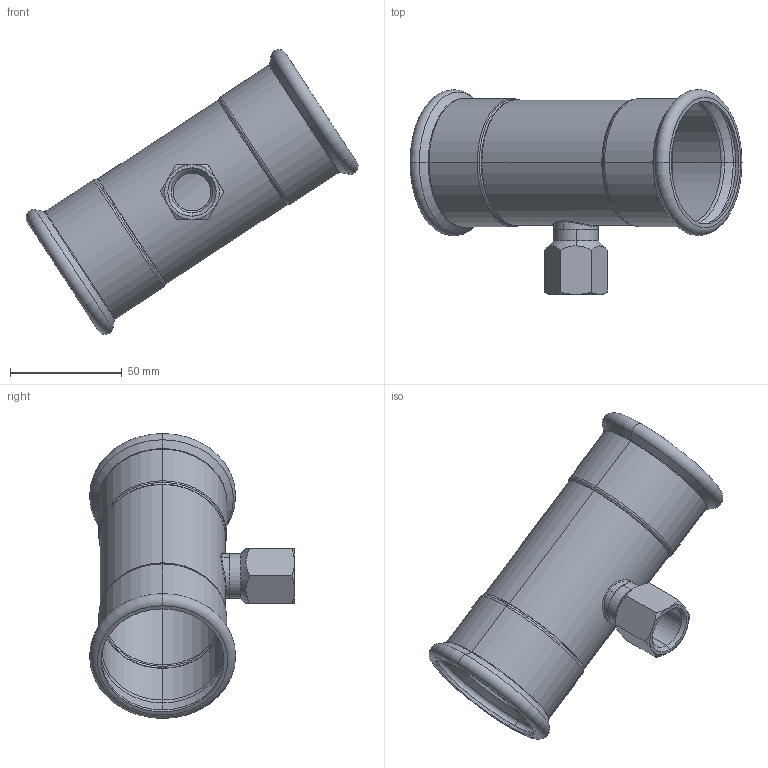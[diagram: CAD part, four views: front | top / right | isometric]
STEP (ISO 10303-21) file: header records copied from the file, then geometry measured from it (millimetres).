
FILE_DESCRIPTION (( 'STEP AP203' ), '1' );
FILE_NAME ('GDA5253.STEP', '2019-01-14T01:19:56', ( '' ), ( '' ), 'SwSTEP 2.0', 'SolidWorks 2015', '' );
FILE_SCHEMA (( 'CONFIG_CONTROL_DESIGN' ));
Length unit declared in the file: millimetre
Products named in the file (3): ITC-I-03-18℅?; T(R)-¢ñ-54¡Á18''; GDA5253
Assembly tree (2 placements, depth 2):
  GDA5253
    ITC-I-03-18℅?
    T(R)-¢ñ-54¡Á18''
Bounding box: 148.59 x 91.69 x 127.54 mm (x, y, z)
Volume: 44757.6 mm3; surface area: 56289.6 mm2
Topology: 2 solids, 2 shells, 103 faces, 218 edges, 122 vertices
Faces by surface type: torus 32, cone 28, cylinder 26, plane 13, bspline 4
Entity records: 4098 total; most frequent: CARTESIAN_POINT 1565, DIRECTION 526, ORIENTED_EDGE 436, AXIS2_PLACEMENT_3D 236, EDGE_CURVE 218, CIRCLE 132, VERTEX_POINT 122, EDGE_LOOP 112
